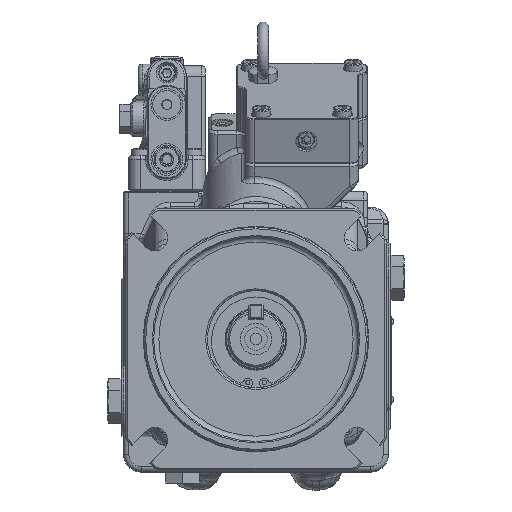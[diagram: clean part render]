
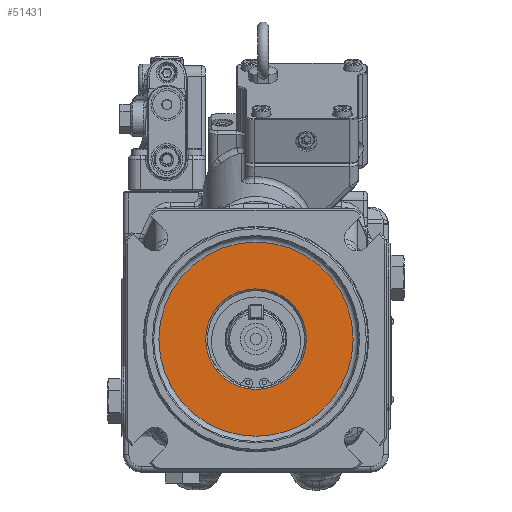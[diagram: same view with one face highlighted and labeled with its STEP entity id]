
A CAD part, top view. The second image highlights one B-rep face of the part: STEP entity #51431.
In plain terms, the highlighted planar face has unit normal (0, 0, 1).
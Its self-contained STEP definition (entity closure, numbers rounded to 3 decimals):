
#3447=FACE_BOUND('',#10230,.T.);
#4515=PLANE('',#55743);
#6992=FACE_OUTER_BOUND('',#10229,.T.);
#10229=EDGE_LOOP('',(#44325));
#10230=EDGE_LOOP('',(#44326));
#20409=CIRCLE('',#55744,55.);
#20410=CIRCLE('',#55745,28.5);
#24591=VERTEX_POINT('',#100084);
#24592=VERTEX_POINT('',#100086);
#31401=EDGE_CURVE('',#24591,#24591,#20409,.T.);
#31402=EDGE_CURVE('',#24592,#24592,#20410,.T.);
#44325=ORIENTED_EDGE('',*,*,#31401,.F.);
#44326=ORIENTED_EDGE('',*,*,#31402,.T.);
#51431=ADVANCED_FACE('',(#6992,#3447),#4515,.F.);
#55743=AXIS2_PLACEMENT_3D('',#100083,#67042,#67043);
#55744=AXIS2_PLACEMENT_3D('',#100085,#67044,#67045);
#55745=AXIS2_PLACEMENT_3D('',#100087,#67046,#67047);
#67042=DIRECTION('center_axis',(0.,0.,
-1.));
#67043=DIRECTION('ref_axis',(0.,1.,0.));
#67044=DIRECTION('center_axis',(0.,0.,
-1.));
#67045=DIRECTION('ref_axis',(-1.,0.,0.));
#67046=DIRECTION('center_axis',(0.,0.,
-1.));
#67047=DIRECTION('ref_axis',(0.,1.,0.));
#100083=CARTESIAN_POINT('Origin',(5.263,-5.525,105.378));
#100084=CARTESIAN_POINT('',(5.263,49.475,105.378));
#100085=CARTESIAN_POINT('Origin',(5.263,-5.525,105.378));
#100086=CARTESIAN_POINT('',(5.263,-34.025,105.378));
#100087=CARTESIAN_POINT('Origin',(5.263,-5.525,105.378));
